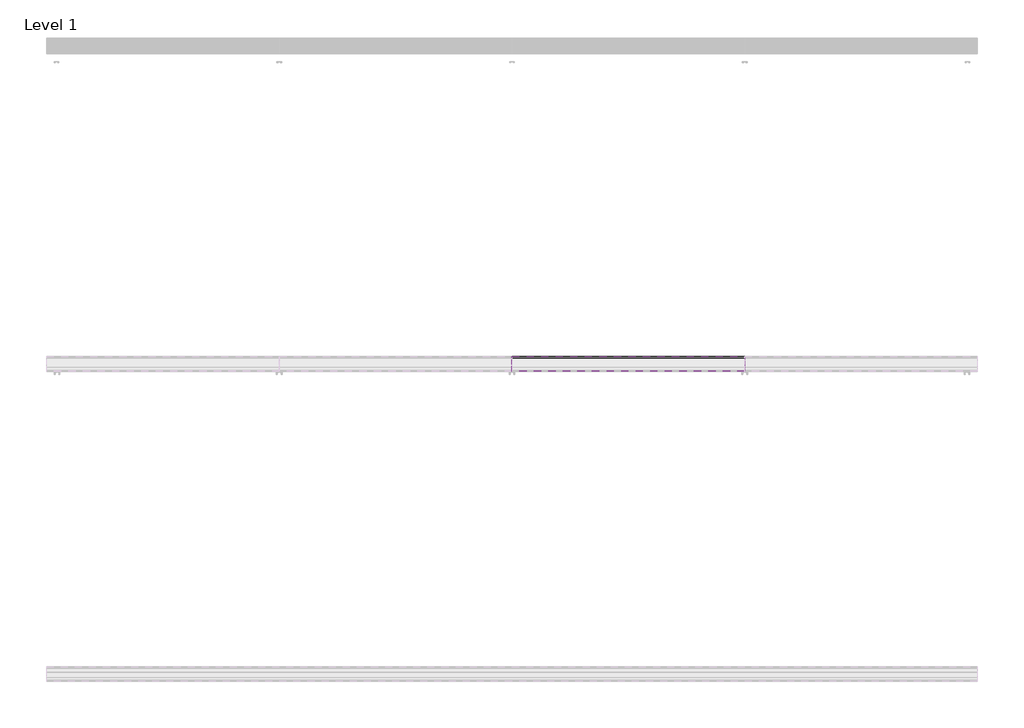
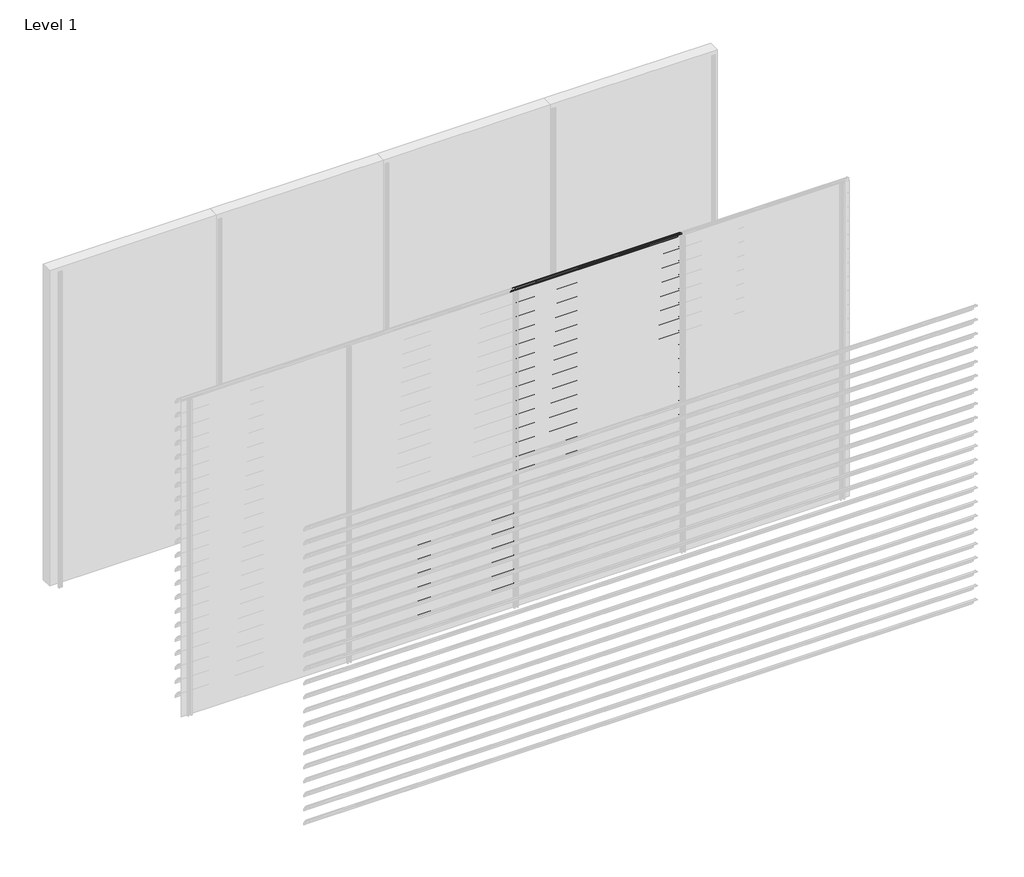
# One storey, part 50 of 57: 20 proxies.
"""IFC4 building model written with IfcOpenShell, lengths in millimetres."""

from ifc_helpers import new_model, si_unit, point, frame, frame_2d, origin, place, context, project, spatial, polyline, circle_curve, trimmed, segment, composite_curve, outline, extrude, element, save

model = new_model("IFC4")

# Units and contexts
model_context = context("Model", 3, world=origin())
ifc_project = project(units=[si_unit("LENGTHUNIT", "METRE", prefix="MILLI")], contexts=[model_context])

# Site, building, storey
site = spatial("IfcSite", under=ifc_project)
building = spatial("IfcBuilding", under=site)
storey = spatial("IfcBuildingStorey", under=building, Name="Level 1", Elevation=0.0)

# Proxies
placement = place(None, origin())
element("IfcBuildingElementProxy", 1, Name="Wall Sweeps", at=placement, inside=storey, context=model_context, shape_type="SweptSolid", body=[
    extrude(outline(composite_curve([segment(trimmed(circle_curve(frame_2d((-5993.7822526, 888.4913792)), 4.2177474), [point((-5989.6985606, 889.5462976))], [point((-5993.7822526, 892.7091266))], False, "CARTESIAN"), True, "CONTINUOUS"), segment(trimmed(circle_curve(frame_2d((-6018.7150834, 790.2536312)), 105.4456002), [point((-5993.7822526, 892.7091266))], [point((-5971.7914298, 884.6832099))], False, "CARTESIAN"), True, "CONTINUOUS"), segment(trimmed(circle_curve(frame_2d((-6061.7199745, 736.0352476)), 173.7335887), [point((-5971.7914298, 884.6832099))], [point((-5913.0720121, 825.9637922))], False, "CARTESIAN"), True, "CONTINUOUS"), segment(trimmed(circle_curve(frame_2d((-6004.9297178, 774.1860314)), 105.4456002), [point((-5913.0720121, 825.9637922))], [point((-5903.6249616, 803.4455765))], False, "CARTESIAN"), True, "CONTINUOUS"), segment(trimmed(circle_curve(frame_2d((-5907.809737, 802.3307305)), 4.3307305), [point((-5903.6249616, 803.4455765))], [point((-5909.0769196, 798.189538))], False, "CARTESIAN"), True, "CONTINUOUS"), segment(polyline([(-5909.0769196, 798.189538), (-5934.7401984, 822.9722783)]), True, "CONTINUOUS"), segment(trimmed(circle_curve(frame_2d((-5931.3879574, 825.2977626)), 4.079877), [point((-5934.7401984, 822.9722783))], [point((-5930.7310597, 829.3244091))], False, "CARTESIAN"), True, "CONTINUOUS"), segment(trimmed(circle_curve(frame_2d((-6014.6665585, 807.2544323)), 86.7885467), [point((-5930.7310597, 829.3244091))], [point((-5942.3028351, 855.1683485))], True, "CARTESIAN"), True, "CONTINUOUS"), segment(polyline([(-5942.3028351, 855.1683485), (-5940.7230099, 857.9046861)]), True, "CONTINUOUS"), segment(trimmed(circle_curve(frame_2d((-6061.7199745, 736.0352476)), 171.7335887), [point((-5940.7230099, 857.9046861))], [point((-5972.7555872, 882.9289618))], True, "CARTESIAN"), True, "CONTINUOUS"), segment(trimmed(circle_curve(frame_2d((-6018.7150834, 790.2536312)), 103.4456002), [point((-5972.7555872, 882.9289618))], [point((-5989.6985606, 889.5462976))], True, "CARTESIAN"), True, "CONTINUOUS")], self_intersect=False)), frame((1500.0, 0.0, 0.0), z_axis=(1.0, 0.0, 0.0), x_axis=(0.0, 1.0, 0.0)), (0.0, 0.0, 1.0), 1500.0),
])
element("IfcBuildingElementProxy", 2, Name="Wall Sweeps", at=placement, inside=storey, context=model_context, shape_type="SweptSolid", body=[
    extrude(outline(composite_curve([segment(trimmed(circle_curve(frame_2d((-5993.7822526, 755.4913792)), 4.2177474), [point((-5989.6985606, 756.5462976))], [point((-5993.7822526, 759.7091266))], False, "CARTESIAN"), True, "CONTINUOUS"), segment(trimmed(circle_curve(frame_2d((-6018.7150834, 657.2536312)), 105.4456002), [point((-5993.7822526, 759.7091266))], [point((-5971.7914298, 751.6832099))], False, "CARTESIAN"), True, "CONTINUOUS"), segment(trimmed(circle_curve(frame_2d((-6061.7199745, 603.0352476)), 173.7335887), [point((-5971.7914298, 751.6832099))], [point((-5913.0720121, 692.9637922))], False, "CARTESIAN"), True, "CONTINUOUS"), segment(trimmed(circle_curve(frame_2d((-6004.9297178, 641.1860314)), 105.4456002), [point((-5913.0720121, 692.9637922))], [point((-5903.6249616, 670.4455765))], False, "CARTESIAN"), True, "CONTINUOUS"), segment(trimmed(circle_curve(frame_2d((-5907.809737, 669.3307305)), 4.3307305), [point((-5903.6249616, 670.4455765))], [point((-5909.0769196, 665.189538))], False, "CARTESIAN"), True, "CONTINUOUS"), segment(polyline([(-5909.0769196, 665.189538), (-5934.7401984, 689.9722783)]), True, "CONTINUOUS"), segment(trimmed(circle_curve(frame_2d((-5931.3879574, 692.2977626)), 4.079877), [point((-5934.7401984, 689.9722783))], [point((-5930.7310597, 696.3244091))], False, "CARTESIAN"), True, "CONTINUOUS"), segment(trimmed(circle_curve(frame_2d((-6014.6665585, 674.2544323)), 86.7885467), [point((-5930.7310597, 696.3244091))], [point((-5942.3028351, 722.1683485))], True, "CARTESIAN"), True, "CONTINUOUS"), segment(polyline([(-5942.3028351, 722.1683485), (-5940.7230099, 724.9046861)]), True, "CONTINUOUS"), segment(trimmed(circle_curve(frame_2d((-6061.7199745, 603.0352476)), 171.7335887), [point((-5940.7230099, 724.9046861))], [point((-5972.7555872, 749.9289618))], True, "CARTESIAN"), True, "CONTINUOUS"), segment(trimmed(circle_curve(frame_2d((-6018.7150834, 657.2536312)), 103.4456002), [point((-5972.7555872, 749.9289618))], [point((-5989.6985606, 756.5462976))], True, "CARTESIAN"), True, "CONTINUOUS")], self_intersect=False)), frame((1500.0, 0.0, 0.0), z_axis=(1.0, 0.0, 0.0), x_axis=(0.0, 1.0, 0.0)), (0.0, 0.0, 1.0), 1500.0),
])
element("IfcBuildingElementProxy", 3, Name="Wall Sweeps", at=placement, inside=storey, context=model_context, shape_type="SweptSolid", body=[
    extrude(outline(composite_curve([segment(trimmed(circle_curve(frame_2d((-5993.7822526, 622.4913792)), 4.2177474), [point((-5989.6985606, 623.5462976))], [point((-5993.7822526, 626.7091266))], False, "CARTESIAN"), True, "CONTINUOUS"), segment(trimmed(circle_curve(frame_2d((-6018.7150834, 524.2536312)), 105.4456002), [point((-5993.7822526, 626.7091266))], [point((-5971.7914298, 618.6832099))], False, "CARTESIAN"), True, "CONTINUOUS"), segment(trimmed(circle_curve(frame_2d((-6061.7199745, 470.0352476)), 173.7335887), [point((-5971.7914298, 618.6832099))], [point((-5913.0720121, 559.9637922))], False, "CARTESIAN"), True, "CONTINUOUS"), segment(trimmed(circle_curve(frame_2d((-6004.9297178, 508.1860314)), 105.4456002), [point((-5913.0720121, 559.9637922))], [point((-5903.6249616, 537.4455765))], False, "CARTESIAN"), True, "CONTINUOUS"), segment(trimmed(circle_curve(frame_2d((-5907.809737, 536.3307305)), 4.3307305), [point((-5903.6249616, 537.4455765))], [point((-5909.0769196, 532.189538))], False, "CARTESIAN"), True, "CONTINUOUS"), segment(polyline([(-5909.0769196, 532.189538), (-5934.7401984, 556.9722783)]), True, "CONTINUOUS"), segment(trimmed(circle_curve(frame_2d((-5931.3879574, 559.2977626)), 4.079877), [point((-5934.7401984, 556.9722783))], [point((-5930.7310597, 563.3244091))], False, "CARTESIAN"), True, "CONTINUOUS"), segment(trimmed(circle_curve(frame_2d((-6014.6665585, 541.2544323)), 86.7885467), [point((-5930.7310597, 563.3244091))], [point((-5942.3028351, 589.1683485))], True, "CARTESIAN"), True, "CONTINUOUS"), segment(polyline([(-5942.3028351, 589.1683485), (-5940.7230099, 591.9046861)]), True, "CONTINUOUS"), segment(trimmed(circle_curve(frame_2d((-6061.7199745, 470.0352476)), 171.7335887), [point((-5940.7230099, 591.9046861))], [point((-5972.7555872, 616.9289618))], True, "CARTESIAN"), True, "CONTINUOUS"), segment(trimmed(circle_curve(frame_2d((-6018.7150834, 524.2536312)), 103.4456002), [point((-5972.7555872, 616.9289618))], [point((-5989.6985606, 623.5462976))], True, "CARTESIAN"), True, "CONTINUOUS")], self_intersect=False)), frame((1500.0, 0.0, 0.0), z_axis=(1.0, 0.0, 0.0), x_axis=(0.0, 1.0, 0.0)), (0.0, 0.0, 1.0), 1500.0),
])
element("IfcBuildingElementProxy", 4, Name="Wall Sweeps", at=placement, inside=storey, context=model_context, shape_type="SweptSolid", body=[
    extrude(outline(composite_curve([segment(trimmed(circle_curve(frame_2d((-5993.7822526, 489.4913792)), 4.2177474), [point((-5989.6985606, 490.5462976))], [point((-5993.7822526, 493.7091266))], False, "CARTESIAN"), True, "CONTINUOUS"), segment(trimmed(circle_curve(frame_2d((-6018.7150834, 391.2536312)), 105.4456002), [point((-5993.7822526, 493.7091266))], [point((-5971.7914298, 485.6832099))], False, "CARTESIAN"), True, "CONTINUOUS"), segment(trimmed(circle_curve(frame_2d((-6061.7199745, 337.0352476)), 173.7335887), [point((-5971.7914298, 485.6832099))], [point((-5913.0720121, 426.9637922))], False, "CARTESIAN"), True, "CONTINUOUS"), segment(trimmed(circle_curve(frame_2d((-6004.9297178, 375.1860314)), 105.4456002), [point((-5913.0720121, 426.9637922))], [point((-5903.6249616, 404.4455765))], False, "CARTESIAN"), True, "CONTINUOUS"), segment(trimmed(circle_curve(frame_2d((-5907.809737, 403.3307305)), 4.3307305), [point((-5903.6249616, 404.4455765))], [point((-5909.0769196, 399.189538))], False, "CARTESIAN"), True, "CONTINUOUS"), segment(polyline([(-5909.0769196, 399.189538), (-5934.7401984, 423.9722783)]), True, "CONTINUOUS"), segment(trimmed(circle_curve(frame_2d((-5931.3879574, 426.2977626)), 4.079877), [point((-5934.7401984, 423.9722783))], [point((-5930.7310597, 430.3244091))], False, "CARTESIAN"), True, "CONTINUOUS"), segment(trimmed(circle_curve(frame_2d((-6014.6665585, 408.2544323)), 86.7885467), [point((-5930.7310597, 430.3244091))], [point((-5942.3028351, 456.1683485))], True, "CARTESIAN"), True, "CONTINUOUS"), segment(polyline([(-5942.3028351, 456.1683485), (-5940.7230099, 458.9046861)]), True, "CONTINUOUS"), segment(trimmed(circle_curve(frame_2d((-6061.7199745, 337.0352476)), 171.7335887), [point((-5940.7230099, 458.9046861))], [point((-5972.7555872, 483.9289618))], True, "CARTESIAN"), True, "CONTINUOUS"), segment(trimmed(circle_curve(frame_2d((-6018.7150834, 391.2536312)), 103.4456002), [point((-5972.7555872, 483.9289618))], [point((-5989.6985606, 490.5462976))], True, "CARTESIAN"), True, "CONTINUOUS")], self_intersect=False)), frame((1500.0, 0.0, 0.0), z_axis=(1.0, 0.0, 0.0), x_axis=(0.0, 1.0, 0.0)), (0.0, 0.0, 1.0), 1500.0),
])
element("IfcBuildingElementProxy", 5, Name="Wall Sweeps", at=placement, inside=storey, context=model_context, shape_type="SweptSolid", body=[
    extrude(outline(composite_curve([segment(trimmed(circle_curve(frame_2d((-5993.7822526, 356.4913792)), 4.2177474), [point((-5989.6985606, 357.5462976))], [point((-5993.7822526, 360.7091266))], False, "CARTESIAN"), True, "CONTINUOUS"), segment(trimmed(circle_curve(frame_2d((-6018.7150834, 258.2536312)), 105.4456002), [point((-5993.7822526, 360.7091266))], [point((-5971.7914298, 352.6832099))], False, "CARTESIAN"), True, "CONTINUOUS"), segment(trimmed(circle_curve(frame_2d((-6061.7199745, 204.0352476)), 173.7335887), [point((-5971.7914298, 352.6832099))], [point((-5913.0720121, 293.9637922))], False, "CARTESIAN"), True, "CONTINUOUS"), segment(trimmed(circle_curve(frame_2d((-6004.9297178, 242.1860314)), 105.4456002), [point((-5913.0720121, 293.9637922))], [point((-5903.6249616, 271.4455765))], False, "CARTESIAN"), True, "CONTINUOUS"), segment(trimmed(circle_curve(frame_2d((-5907.809737, 270.3307305)), 4.3307305), [point((-5903.6249616, 271.4455765))], [point((-5909.0769196, 266.189538))], False, "CARTESIAN"), True, "CONTINUOUS"), segment(polyline([(-5909.0769196, 266.189538), (-5934.7401984, 290.9722783)]), True, "CONTINUOUS"), segment(trimmed(circle_curve(frame_2d((-5931.3879574, 293.2977626)), 4.079877), [point((-5934.7401984, 290.9722783))], [point((-5930.7310597, 297.3244091))], False, "CARTESIAN"), True, "CONTINUOUS"), segment(trimmed(circle_curve(frame_2d((-6014.6665585, 275.2544323)), 86.7885467), [point((-5930.7310597, 297.3244091))], [point((-5942.3028351, 323.1683485))], True, "CARTESIAN"), True, "CONTINUOUS"), segment(polyline([(-5942.3028351, 323.1683485), (-5940.7230099, 325.9046861)]), True, "CONTINUOUS"), segment(trimmed(circle_curve(frame_2d((-6061.7199745, 204.0352476)), 171.7335887), [point((-5940.7230099, 325.9046861))], [point((-5972.7555872, 350.9289618))], True, "CARTESIAN"), True, "CONTINUOUS"), segment(trimmed(circle_curve(frame_2d((-6018.7150834, 258.2536312)), 103.4456002), [point((-5972.7555872, 350.9289618))], [point((-5989.6985606, 357.5462976))], True, "CARTESIAN"), True, "CONTINUOUS")], self_intersect=False)), frame((1500.0, 0.0, 0.0), z_axis=(1.0, 0.0, 0.0), x_axis=(0.0, 1.0, 0.0)), (0.0, 0.0, 1.0), 1500.0),
])
element("IfcBuildingElementProxy", 6, Name="Wall Sweeps", at=placement, inside=storey, context=model_context, shape_type="SweptSolid", body=[
    extrude(outline(composite_curve([segment(trimmed(circle_curve(frame_2d((-5993.7822526, 223.4913792)), 4.2177474), [point((-5989.6985606, 224.5462976))], [point((-5993.7822526, 227.7091266))], False, "CARTESIAN"), True, "CONTINUOUS"), segment(trimmed(circle_curve(frame_2d((-6018.7150834, 125.2536312)), 105.4456002), [point((-5993.7822526, 227.7091266))], [point((-5971.7914298, 219.6832099))], False, "CARTESIAN"), True, "CONTINUOUS"), segment(trimmed(circle_curve(frame_2d((-6061.7199745, 71.0352476)), 173.7335887), [point((-5971.7914298, 219.6832099))], [point((-5913.0720121, 160.9637922))], False, "CARTESIAN"), True, "CONTINUOUS"), segment(trimmed(circle_curve(frame_2d((-6004.9297178, 109.1860314)), 105.4456002), [point((-5913.0720121, 160.9637922))], [point((-5903.6249616, 138.4455765))], False, "CARTESIAN"), True, "CONTINUOUS"), segment(trimmed(circle_curve(frame_2d((-5907.809737, 137.3307305)), 4.3307305), [point((-5903.6249616, 138.4455765))], [point((-5909.0769196, 133.189538))], False, "CARTESIAN"), True, "CONTINUOUS"), segment(polyline([(-5909.0769196, 133.189538), (-5934.7401984, 157.9722783)]), True, "CONTINUOUS"), segment(trimmed(circle_curve(frame_2d((-5931.3879574, 160.2977626)), 4.079877), [point((-5934.7401984, 157.9722783))], [point((-5930.7310597, 164.3244091))], False, "CARTESIAN"), True, "CONTINUOUS"), segment(trimmed(circle_curve(frame_2d((-6014.6665585, 142.2544323)), 86.7885467), [point((-5930.7310597, 164.3244091))], [point((-5942.3028351, 190.1683485))], True, "CARTESIAN"), True, "CONTINUOUS"), segment(polyline([(-5942.3028351, 190.1683485), (-5940.7230099, 192.9046861)]), True, "CONTINUOUS"), segment(trimmed(circle_curve(frame_2d((-6061.7199745, 71.0352476)), 171.7335887), [point((-5940.7230099, 192.9046861))], [point((-5972.7555872, 217.9289618))], True, "CARTESIAN"), True, "CONTINUOUS"), segment(trimmed(circle_curve(frame_2d((-6018.7150834, 125.2536312)), 103.4456002), [point((-5972.7555872, 217.9289618))], [point((-5989.6985606, 224.5462976))], True, "CARTESIAN"), True, "CONTINUOUS")], self_intersect=False)), frame((1500.0, 0.0, 0.0), z_axis=(1.0, 0.0, 0.0), x_axis=(0.0, 1.0, 0.0)), (0.0, 0.0, 1.0), 1500.0),
])
element("IfcBuildingElementProxy", 7, Name="Wall Sweeps", at=placement, inside=storey, context=model_context, shape_type="SweptSolid", body=[
    extrude(outline(composite_curve([segment(trimmed(circle_curve(frame_2d((-5993.7822526, 3016.4913792)), 4.2177474), [point((-5989.6985606, 3017.5462976))], [point((-5993.7822526, 3020.7091266))], False, "CARTESIAN"), True, "CONTINUOUS"), segment(trimmed(circle_curve(frame_2d((-6018.7150834, 2918.2536312)), 105.4456002), [point((-5993.7822526, 3020.7091266))], [point((-5971.7914298, 3012.6832099))], False, "CARTESIAN"), True, "CONTINUOUS"), segment(trimmed(circle_curve(frame_2d((-6061.7199745, 2864.0352476)), 173.7335887), [point((-5971.7914298, 3012.6832099))], [point((-5913.0720121, 2953.9637922))], False, "CARTESIAN"), True, "CONTINUOUS"), segment(trimmed(circle_curve(frame_2d((-6004.9297178, 2902.1860314)), 105.4456002), [point((-5913.0720121, 2953.9637922))], [point((-5903.6249616, 2931.4455765))], False, "CARTESIAN"), True, "CONTINUOUS"), segment(trimmed(circle_curve(frame_2d((-5907.809737, 2930.3307305)), 4.3307305), [point((-5903.6249616, 2931.4455765))], [point((-5909.0769196, 2926.189538))], False, "CARTESIAN"), True, "CONTINUOUS"), segment(polyline([(-5909.0769196, 2926.189538), (-5934.7401984, 2950.9722783)]), True, "CONTINUOUS"), segment(trimmed(circle_curve(frame_2d((-5931.3879574, 2953.2977626)), 4.079877), [point((-5934.7401984, 2950.9722783))], [point((-5930.7310597, 2957.3244091))], False, "CARTESIAN"), True, "CONTINUOUS"), segment(trimmed(circle_curve(frame_2d((-6014.6665585, 2935.2544323)), 86.7885467), [point((-5930.7310597, 2957.3244091))], [point((-5942.3028351, 2983.1683485))], True, "CARTESIAN"), True, "CONTINUOUS"), segment(polyline([(-5942.3028351, 2983.1683485), (-5940.7230099, 2985.9046861)]), True, "CONTINUOUS"), segment(trimmed(circle_curve(frame_2d((-6061.7199745, 2864.0352476)), 171.7335887), [point((-5940.7230099, 2985.9046861))], [point((-5972.7555872, 3010.9289618))], True, "CARTESIAN"), True, "CONTINUOUS"), segment(trimmed(circle_curve(frame_2d((-6018.7150834, 2918.2536312)), 103.4456002), [point((-5972.7555872, 3010.9289618))], [point((-5989.6985606, 3017.5462976))], True, "CARTESIAN"), True, "CONTINUOUS")], self_intersect=False)), frame((3000.0, 0.0, 0.0), z_axis=(1.0, 0.0, 0.0), x_axis=(0.0, 1.0, 0.0)), (0.0, 0.0, 1.0), 1500.0),
])
element("IfcBuildingElementProxy", 8, Name="Wall Sweeps", at=placement, inside=storey, context=model_context, shape_type="SweptSolid", body=[
    extrude(outline(composite_curve([segment(trimmed(circle_curve(frame_2d((-5993.7822526, 2883.4913792)), 4.2177474), [point((-5989.6985606, 2884.5462976))], [point((-5993.7822526, 2887.7091266))], False, "CARTESIAN"), True, "CONTINUOUS"), segment(trimmed(circle_curve(frame_2d((-6018.7150834, 2785.2536312)), 105.4456002), [point((-5993.7822526, 2887.7091266))], [point((-5971.7914298, 2879.6832099))], False, "CARTESIAN"), True, "CONTINUOUS"), segment(trimmed(circle_curve(frame_2d((-6061.7199745, 2731.0352476)), 173.7335887), [point((-5971.7914298, 2879.6832099))], [point((-5913.0720121, 2820.9637922))], False, "CARTESIAN"), True, "CONTINUOUS"), segment(trimmed(circle_curve(frame_2d((-6004.9297178, 2769.1860314)), 105.4456002), [point((-5913.0720121, 2820.9637922))], [point((-5903.6249616, 2798.4455765))], False, "CARTESIAN"), True, "CONTINUOUS"), segment(trimmed(circle_curve(frame_2d((-5907.809737, 2797.3307305)), 4.3307305), [point((-5903.6249616, 2798.4455765))], [point((-5909.0769196, 2793.189538))], False, "CARTESIAN"), True, "CONTINUOUS"), segment(polyline([(-5909.0769196, 2793.189538), (-5934.7401984, 2817.9722783)]), True, "CONTINUOUS"), segment(trimmed(circle_curve(frame_2d((-5931.3879574, 2820.2977626)), 4.079877), [point((-5934.7401984, 2817.9722783))], [point((-5930.7310597, 2824.3244091))], False, "CARTESIAN"), True, "CONTINUOUS"), segment(trimmed(circle_curve(frame_2d((-6014.6665585, 2802.2544323)), 86.7885467), [point((-5930.7310597, 2824.3244091))], [point((-5942.3028351, 2850.1683485))], True, "CARTESIAN"), True, "CONTINUOUS"), segment(polyline([(-5942.3028351, 2850.1683485), (-5940.7230099, 2852.9046861)]), True, "CONTINUOUS"), segment(trimmed(circle_curve(frame_2d((-6061.7199745, 2731.0352476)), 171.7335887), [point((-5940.7230099, 2852.9046861))], [point((-5972.7555872, 2877.9289618))], True, "CARTESIAN"), True, "CONTINUOUS"), segment(trimmed(circle_curve(frame_2d((-6018.7150834, 2785.2536312)), 103.4456002), [point((-5972.7555872, 2877.9289618))], [point((-5989.6985606, 2884.5462976))], True, "CARTESIAN"), True, "CONTINUOUS")], self_intersect=False)), frame((3000.0, 0.0, 0.0), z_axis=(1.0, 0.0, 0.0), x_axis=(0.0, 1.0, 0.0)), (0.0, 0.0, 1.0), 1500.0),
])
element("IfcBuildingElementProxy", 9, Name="Wall Sweeps", at=placement, inside=storey, context=model_context, shape_type="SweptSolid", body=[
    extrude(outline(composite_curve([segment(trimmed(circle_curve(frame_2d((-5993.7822526, 2750.4913792)), 4.2177474), [point((-5989.6985606, 2751.5462976))], [point((-5993.7822526, 2754.7091266))], False, "CARTESIAN"), True, "CONTINUOUS"), segment(trimmed(circle_curve(frame_2d((-6018.7150834, 2652.2536312)), 105.4456002), [point((-5993.7822526, 2754.7091266))], [point((-5971.7914298, 2746.6832099))], False, "CARTESIAN"), True, "CONTINUOUS"), segment(trimmed(circle_curve(frame_2d((-6061.7199745, 2598.0352476)), 173.7335887), [point((-5971.7914298, 2746.6832099))], [point((-5913.0720121, 2687.9637922))], False, "CARTESIAN"), True, "CONTINUOUS"), segment(trimmed(circle_curve(frame_2d((-6004.9297178, 2636.1860314)), 105.4456002), [point((-5913.0720121, 2687.9637922))], [point((-5903.6249616, 2665.4455765))], False, "CARTESIAN"), True, "CONTINUOUS"), segment(trimmed(circle_curve(frame_2d((-5907.809737, 2664.3307305)), 4.3307305), [point((-5903.6249616, 2665.4455765))], [point((-5909.0769196, 2660.189538))], False, "CARTESIAN"), True, "CONTINUOUS"), segment(polyline([(-5909.0769196, 2660.189538), (-5934.7401984, 2684.9722783)]), True, "CONTINUOUS"), segment(trimmed(circle_curve(frame_2d((-5931.3879574, 2687.2977626)), 4.079877), [point((-5934.7401984, 2684.9722783))], [point((-5930.7310597, 2691.3244091))], False, "CARTESIAN"), True, "CONTINUOUS"), segment(trimmed(circle_curve(frame_2d((-6014.6665585, 2669.2544323)), 86.7885467), [point((-5930.7310597, 2691.3244091))], [point((-5942.3028351, 2717.1683485))], True, "CARTESIAN"), True, "CONTINUOUS"), segment(polyline([(-5942.3028351, 2717.1683485), (-5940.7230099, 2719.9046861)]), True, "CONTINUOUS"), segment(trimmed(circle_curve(frame_2d((-6061.7199745, 2598.0352476)), 171.7335887), [point((-5940.7230099, 2719.9046861))], [point((-5972.7555872, 2744.9289618))], True, "CARTESIAN"), True, "CONTINUOUS"), segment(trimmed(circle_curve(frame_2d((-6018.7150834, 2652.2536312)), 103.4456002), [point((-5972.7555872, 2744.9289618))], [point((-5989.6985606, 2751.5462976))], True, "CARTESIAN"), True, "CONTINUOUS")], self_intersect=False)), frame((3000.0, 0.0, 0.0), z_axis=(1.0, 0.0, 0.0), x_axis=(0.0, 1.0, 0.0)), (0.0, 0.0, 1.0), 1500.0),
])
element("IfcBuildingElementProxy", 10, Name="Wall Sweeps", at=placement, inside=storey, context=model_context, shape_type="SweptSolid", body=[
    extrude(outline(composite_curve([segment(trimmed(circle_curve(frame_2d((-5993.7822526, 2617.4913792)), 4.2177474), [point((-5989.6985606, 2618.5462976))], [point((-5993.7822526, 2621.7091266))], False, "CARTESIAN"), True, "CONTINUOUS"), segment(trimmed(circle_curve(frame_2d((-6018.7150834, 2519.2536312)), 105.4456002), [point((-5993.7822526, 2621.7091266))], [point((-5971.7914298, 2613.6832099))], False, "CARTESIAN"), True, "CONTINUOUS"), segment(trimmed(circle_curve(frame_2d((-6061.7199745, 2465.0352476)), 173.7335887), [point((-5971.7914298, 2613.6832099))], [point((-5913.0720121, 2554.9637922))], False, "CARTESIAN"), True, "CONTINUOUS"), segment(trimmed(circle_curve(frame_2d((-6004.9297178, 2503.1860314)), 105.4456002), [point((-5913.0720121, 2554.9637922))], [point((-5903.6249616, 2532.4455765))], False, "CARTESIAN"), True, "CONTINUOUS"), segment(trimmed(circle_curve(frame_2d((-5907.809737, 2531.3307305)), 4.3307305), [point((-5903.6249616, 2532.4455765))], [point((-5909.0769196, 2527.189538))], False, "CARTESIAN"), True, "CONTINUOUS"), segment(polyline([(-5909.0769196, 2527.189538), (-5934.7401984, 2551.9722783)]), True, "CONTINUOUS"), segment(trimmed(circle_curve(frame_2d((-5931.3879574, 2554.2977626)), 4.079877), [point((-5934.7401984, 2551.9722783))], [point((-5930.7310597, 2558.3244091))], False, "CARTESIAN"), True, "CONTINUOUS"), segment(trimmed(circle_curve(frame_2d((-6014.6665585, 2536.2544323)), 86.7885467), [point((-5930.7310597, 2558.3244091))], [point((-5942.3028351, 2584.1683485))], True, "CARTESIAN"), True, "CONTINUOUS"), segment(polyline([(-5942.3028351, 2584.1683485), (-5940.7230099, 2586.9046861)]), True, "CONTINUOUS"), segment(trimmed(circle_curve(frame_2d((-6061.7199745, 2465.0352476)), 171.7335887), [point((-5940.7230099, 2586.9046861))], [point((-5972.7555872, 2611.9289618))], True, "CARTESIAN"), True, "CONTINUOUS"), segment(trimmed(circle_curve(frame_2d((-6018.7150834, 2519.2536312)), 103.4456002), [point((-5972.7555872, 2611.9289618))], [point((-5989.6985606, 2618.5462976))], True, "CARTESIAN"), True, "CONTINUOUS")], self_intersect=False)), frame((3000.0, 0.0, 0.0), z_axis=(1.0, 0.0, 0.0), x_axis=(0.0, 1.0, 0.0)), (0.0, 0.0, 1.0), 1500.0),
])
element("IfcBuildingElementProxy", 11, Name="Wall Sweeps", at=placement, inside=storey, context=model_context, shape_type="SweptSolid", body=[
    extrude(outline(composite_curve([segment(trimmed(circle_curve(frame_2d((-5993.7822526, 2484.4913792)), 4.2177474), [point((-5989.6985606, 2485.5462976))], [point((-5993.7822526, 2488.7091266))], False, "CARTESIAN"), True, "CONTINUOUS"), segment(trimmed(circle_curve(frame_2d((-6018.7150834, 2386.2536312)), 105.4456002), [point((-5993.7822526, 2488.7091266))], [point((-5971.7914298, 2480.6832099))], False, "CARTESIAN"), True, "CONTINUOUS"), segment(trimmed(circle_curve(frame_2d((-6061.7199745, 2332.0352476)), 173.7335887), [point((-5971.7914298, 2480.6832099))], [point((-5913.0720121, 2421.9637922))], False, "CARTESIAN"), True, "CONTINUOUS"), segment(trimmed(circle_curve(frame_2d((-6004.9297178, 2370.1860314)), 105.4456002), [point((-5913.0720121, 2421.9637922))], [point((-5903.6249616, 2399.4455765))], False, "CARTESIAN"), True, "CONTINUOUS"), segment(trimmed(circle_curve(frame_2d((-5907.809737, 2398.3307305)), 4.3307305), [point((-5903.6249616, 2399.4455765))], [point((-5909.0769196, 2394.189538))], False, "CARTESIAN"), True, "CONTINUOUS"), segment(polyline([(-5909.0769196, 2394.189538), (-5934.7401984, 2418.9722783)]), True, "CONTINUOUS"), segment(trimmed(circle_curve(frame_2d((-5931.3879574, 2421.2977626)), 4.079877), [point((-5934.7401984, 2418.9722783))], [point((-5930.7310597, 2425.3244091))], False, "CARTESIAN"), True, "CONTINUOUS"), segment(trimmed(circle_curve(frame_2d((-6014.6665585, 2403.2544323)), 86.7885467), [point((-5930.7310597, 2425.3244091))], [point((-5942.3028351, 2451.1683485))], True, "CARTESIAN"), True, "CONTINUOUS"), segment(polyline([(-5942.3028351, 2451.1683485), (-5940.7230099, 2453.9046861)]), True, "CONTINUOUS"), segment(trimmed(circle_curve(frame_2d((-6061.7199745, 2332.0352476)), 171.7335887), [point((-5940.7230099, 2453.9046861))], [point((-5972.7555872, 2478.9289618))], True, "CARTESIAN"), True, "CONTINUOUS"), segment(trimmed(circle_curve(frame_2d((-6018.7150834, 2386.2536312)), 103.4456002), [point((-5972.7555872, 2478.9289618))], [point((-5989.6985606, 2485.5462976))], True, "CARTESIAN"), True, "CONTINUOUS")], self_intersect=False)), frame((3000.0, 0.0, 0.0), z_axis=(1.0, 0.0, 0.0), x_axis=(0.0, 1.0, 0.0)), (0.0, 0.0, 1.0), 1500.0),
])
element("IfcBuildingElementProxy", 12, Name="Wall Sweeps", at=placement, inside=storey, context=model_context, shape_type="SweptSolid", body=[
    extrude(outline(composite_curve([segment(trimmed(circle_curve(frame_2d((-5993.7822526, 2351.4913792)), 4.2177474), [point((-5989.6985606, 2352.5462976))], [point((-5993.7822526, 2355.7091266))], False, "CARTESIAN"), True, "CONTINUOUS"), segment(trimmed(circle_curve(frame_2d((-6018.7150834, 2253.2536312)), 105.4456002), [point((-5993.7822526, 2355.7091266))], [point((-5971.7914298, 2347.6832099))], False, "CARTESIAN"), True, "CONTINUOUS"), segment(trimmed(circle_curve(frame_2d((-6061.7199745, 2199.0352476)), 173.7335887), [point((-5971.7914298, 2347.6832099))], [point((-5913.0720121, 2288.9637922))], False, "CARTESIAN"), True, "CONTINUOUS"), segment(trimmed(circle_curve(frame_2d((-6004.9297178, 2237.1860314)), 105.4456002), [point((-5913.0720121, 2288.9637922))], [point((-5903.6249616, 2266.4455765))], False, "CARTESIAN"), True, "CONTINUOUS"), segment(trimmed(circle_curve(frame_2d((-5907.809737, 2265.3307305)), 4.3307305), [point((-5903.6249616, 2266.4455765))], [point((-5909.0769196, 2261.189538))], False, "CARTESIAN"), True, "CONTINUOUS"), segment(polyline([(-5909.0769196, 2261.189538), (-5934.7401984, 2285.9722783)]), True, "CONTINUOUS"), segment(trimmed(circle_curve(frame_2d((-5931.3879574, 2288.2977626)), 4.079877), [point((-5934.7401984, 2285.9722783))], [point((-5930.7310597, 2292.3244091))], False, "CARTESIAN"), True, "CONTINUOUS"), segment(trimmed(circle_curve(frame_2d((-6014.6665585, 2270.2544323)), 86.7885467), [point((-5930.7310597, 2292.3244091))], [point((-5942.3028351, 2318.1683485))], True, "CARTESIAN"), True, "CONTINUOUS"), segment(polyline([(-5942.3028351, 2318.1683485), (-5940.7230099, 2320.9046861)]), True, "CONTINUOUS"), segment(trimmed(circle_curve(frame_2d((-6061.7199745, 2199.0352476)), 171.7335887), [point((-5940.7230099, 2320.9046861))], [point((-5972.7555872, 2345.9289618))], True, "CARTESIAN"), True, "CONTINUOUS"), segment(trimmed(circle_curve(frame_2d((-6018.7150834, 2253.2536312)), 103.4456002), [point((-5972.7555872, 2345.9289618))], [point((-5989.6985606, 2352.5462976))], True, "CARTESIAN"), True, "CONTINUOUS")], self_intersect=False)), frame((3000.0, 0.0, 0.0), z_axis=(1.0, 0.0, 0.0), x_axis=(0.0, 1.0, 0.0)), (0.0, 0.0, 1.0), 1500.0),
])
element("IfcBuildingElementProxy", 13, Name="Wall Sweeps", at=placement, inside=storey, context=model_context, shape_type="SweptSolid", body=[
    extrude(outline(composite_curve([segment(trimmed(circle_curve(frame_2d((-5993.7822526, 2218.4913792)), 4.2177474), [point((-5989.6985606, 2219.5462976))], [point((-5993.7822526, 2222.7091266))], False, "CARTESIAN"), True, "CONTINUOUS"), segment(trimmed(circle_curve(frame_2d((-6018.7150834, 2120.2536312)), 105.4456002), [point((-5993.7822526, 2222.7091266))], [point((-5971.7914298, 2214.6832099))], False, "CARTESIAN"), True, "CONTINUOUS"), segment(trimmed(circle_curve(frame_2d((-6061.7199745, 2066.0352476)), 173.7335887), [point((-5971.7914298, 2214.6832099))], [point((-5913.0720121, 2155.9637922))], False, "CARTESIAN"), True, "CONTINUOUS"), segment(trimmed(circle_curve(frame_2d((-6004.9297178, 2104.1860314)), 105.4456002), [point((-5913.0720121, 2155.9637922))], [point((-5903.6249616, 2133.4455765))], False, "CARTESIAN"), True, "CONTINUOUS"), segment(trimmed(circle_curve(frame_2d((-5907.809737, 2132.3307305)), 4.3307305), [point((-5903.6249616, 2133.4455765))], [point((-5909.0769196, 2128.189538))], False, "CARTESIAN"), True, "CONTINUOUS"), segment(polyline([(-5909.0769196, 2128.189538), (-5934.7401984, 2152.9722783)]), True, "CONTINUOUS"), segment(trimmed(circle_curve(frame_2d((-5931.3879574, 2155.2977626)), 4.079877), [point((-5934.7401984, 2152.9722783))], [point((-5930.7310597, 2159.3244091))], False, "CARTESIAN"), True, "CONTINUOUS"), segment(trimmed(circle_curve(frame_2d((-6014.6665585, 2137.2544323)), 86.7885467), [point((-5930.7310597, 2159.3244091))], [point((-5942.3028351, 2185.1683485))], True, "CARTESIAN"), True, "CONTINUOUS"), segment(polyline([(-5942.3028351, 2185.1683485), (-5940.7230099, 2187.9046861)]), True, "CONTINUOUS"), segment(trimmed(circle_curve(frame_2d((-6061.7199745, 2066.0352476)), 171.7335887), [point((-5940.7230099, 2187.9046861))], [point((-5972.7555872, 2212.9289618))], True, "CARTESIAN"), True, "CONTINUOUS"), segment(trimmed(circle_curve(frame_2d((-6018.7150834, 2120.2536312)), 103.4456002), [point((-5972.7555872, 2212.9289618))], [point((-5989.6985606, 2219.5462976))], True, "CARTESIAN"), True, "CONTINUOUS")], self_intersect=False)), frame((3000.0, 0.0, 0.0), z_axis=(1.0, 0.0, 0.0), x_axis=(0.0, 1.0, 0.0)), (0.0, 0.0, 1.0), 1500.0),
])
element("IfcBuildingElementProxy", 14, Name="Wall Sweeps", at=placement, inside=storey, context=model_context, shape_type="SweptSolid", body=[
    extrude(outline(composite_curve([segment(trimmed(circle_curve(frame_2d((-5993.7822526, 2085.4913792)), 4.2177474), [point((-5989.6985606, 2086.5462976))], [point((-5993.7822526, 2089.7091266))], False, "CARTESIAN"), True, "CONTINUOUS"), segment(trimmed(circle_curve(frame_2d((-6018.7150834, 1987.2536312)), 105.4456002), [point((-5993.7822526, 2089.7091266))], [point((-5971.7914298, 2081.6832099))], False, "CARTESIAN"), True, "CONTINUOUS"), segment(trimmed(circle_curve(frame_2d((-6061.7199745, 1933.0352476)), 173.7335887), [point((-5971.7914298, 2081.6832099))], [point((-5913.0720121, 2022.9637922))], False, "CARTESIAN"), True, "CONTINUOUS"), segment(trimmed(circle_curve(frame_2d((-6004.9297178, 1971.1860314)), 105.4456002), [point((-5913.0720121, 2022.9637922))], [point((-5903.6249616, 2000.4455765))], False, "CARTESIAN"), True, "CONTINUOUS"), segment(trimmed(circle_curve(frame_2d((-5907.809737, 1999.3307305)), 4.3307305), [point((-5903.6249616, 2000.4455765))], [point((-5909.0769196, 1995.189538))], False, "CARTESIAN"), True, "CONTINUOUS"), segment(polyline([(-5909.0769196, 1995.189538), (-5934.7401984, 2019.9722783)]), True, "CONTINUOUS"), segment(trimmed(circle_curve(frame_2d((-5931.3879574, 2022.2977626)), 4.079877), [point((-5934.7401984, 2019.9722783))], [point((-5930.7310597, 2026.3244091))], False, "CARTESIAN"), True, "CONTINUOUS"), segment(trimmed(circle_curve(frame_2d((-6014.6665585, 2004.2544323)), 86.7885467), [point((-5930.7310597, 2026.3244091))], [point((-5942.3028351, 2052.1683485))], True, "CARTESIAN"), True, "CONTINUOUS"), segment(polyline([(-5942.3028351, 2052.1683485), (-5940.7230099, 2054.9046861)]), True, "CONTINUOUS"), segment(trimmed(circle_curve(frame_2d((-6061.7199745, 1933.0352476)), 171.7335887), [point((-5940.7230099, 2054.9046861))], [point((-5972.7555872, 2079.9289618))], True, "CARTESIAN"), True, "CONTINUOUS"), segment(trimmed(circle_curve(frame_2d((-6018.7150834, 1987.2536312)), 103.4456002), [point((-5972.7555872, 2079.9289618))], [point((-5989.6985606, 2086.5462976))], True, "CARTESIAN"), True, "CONTINUOUS")], self_intersect=False)), frame((3000.0, 0.0, 0.0), z_axis=(1.0, 0.0, 0.0), x_axis=(0.0, 1.0, 0.0)), (0.0, 0.0, 1.0), 1500.0),
])
element("IfcBuildingElementProxy", 15, Name="Wall Sweeps", at=placement, inside=storey, context=model_context, shape_type="SweptSolid", body=[
    extrude(outline(composite_curve([segment(trimmed(circle_curve(frame_2d((-5993.7822526, 1952.4913792)), 4.2177474), [point((-5989.6985606, 1953.5462976))], [point((-5993.7822526, 1956.7091266))], False, "CARTESIAN"), True, "CONTINUOUS"), segment(trimmed(circle_curve(frame_2d((-6018.7150834, 1854.2536312)), 105.4456002), [point((-5993.7822526, 1956.7091266))], [point((-5971.7914298, 1948.6832099))], False, "CARTESIAN"), True, "CONTINUOUS"), segment(trimmed(circle_curve(frame_2d((-6061.7199745, 1800.0352476)), 173.7335887), [point((-5971.7914298, 1948.6832099))], [point((-5913.0720121, 1889.9637922))], False, "CARTESIAN"), True, "CONTINUOUS"), segment(trimmed(circle_curve(frame_2d((-6004.9297178, 1838.1860314)), 105.4456002), [point((-5913.0720121, 1889.9637922))], [point((-5903.6249616, 1867.4455765))], False, "CARTESIAN"), True, "CONTINUOUS"), segment(trimmed(circle_curve(frame_2d((-5907.809737, 1866.3307305)), 4.3307305), [point((-5903.6249616, 1867.4455765))], [point((-5909.0769196, 1862.189538))], False, "CARTESIAN"), True, "CONTINUOUS"), segment(polyline([(-5909.0769196, 1862.189538), (-5934.7401984, 1886.9722783)]), True, "CONTINUOUS"), segment(trimmed(circle_curve(frame_2d((-5931.3879574, 1889.2977626)), 4.079877), [point((-5934.7401984, 1886.9722783))], [point((-5930.7310597, 1893.3244091))], False, "CARTESIAN"), True, "CONTINUOUS"), segment(trimmed(circle_curve(frame_2d((-6014.6665585, 1871.2544323)), 86.7885467), [point((-5930.7310597, 1893.3244091))], [point((-5942.3028351, 1919.1683485))], True, "CARTESIAN"), True, "CONTINUOUS"), segment(polyline([(-5942.3028351, 1919.1683485), (-5940.7230099, 1921.9046861)]), True, "CONTINUOUS"), segment(trimmed(circle_curve(frame_2d((-6061.7199745, 1800.0352476)), 171.7335887), [point((-5940.7230099, 1921.9046861))], [point((-5972.7555872, 1946.9289618))], True, "CARTESIAN"), True, "CONTINUOUS"), segment(trimmed(circle_curve(frame_2d((-6018.7150834, 1854.2536312)), 103.4456002), [point((-5972.7555872, 1946.9289618))], [point((-5989.6985606, 1953.5462976))], True, "CARTESIAN"), True, "CONTINUOUS")], self_intersect=False)), frame((3000.0, 0.0, 0.0), z_axis=(1.0, 0.0, 0.0), x_axis=(0.0, 1.0, 0.0)), (0.0, 0.0, 1.0), 1500.0),
])
element("IfcBuildingElementProxy", 16, Name="Wall Sweeps", at=placement, inside=storey, context=model_context, shape_type="SweptSolid", body=[
    extrude(outline(composite_curve([segment(trimmed(circle_curve(frame_2d((-5993.7822526, 1819.4913792)), 4.2177474), [point((-5989.6985606, 1820.5462976))], [point((-5993.7822526, 1823.7091266))], False, "CARTESIAN"), True, "CONTINUOUS"), segment(trimmed(circle_curve(frame_2d((-6018.7150834, 1721.2536312)), 105.4456002), [point((-5993.7822526, 1823.7091266))], [point((-5971.7914298, 1815.6832099))], False, "CARTESIAN"), True, "CONTINUOUS"), segment(trimmed(circle_curve(frame_2d((-6061.7199745, 1667.0352476)), 173.7335887), [point((-5971.7914298, 1815.6832099))], [point((-5913.0720121, 1756.9637922))], False, "CARTESIAN"), True, "CONTINUOUS"), segment(trimmed(circle_curve(frame_2d((-6004.9297178, 1705.1860314)), 105.4456002), [point((-5913.0720121, 1756.9637922))], [point((-5903.6249616, 1734.4455765))], False, "CARTESIAN"), True, "CONTINUOUS"), segment(trimmed(circle_curve(frame_2d((-5907.809737, 1733.3307305)), 4.3307305), [point((-5903.6249616, 1734.4455765))], [point((-5909.0769196, 1729.189538))], False, "CARTESIAN"), True, "CONTINUOUS"), segment(polyline([(-5909.0769196, 1729.189538), (-5934.7401984, 1753.9722783)]), True, "CONTINUOUS"), segment(trimmed(circle_curve(frame_2d((-5931.3879574, 1756.2977626)), 4.079877), [point((-5934.7401984, 1753.9722783))], [point((-5930.7310597, 1760.3244091))], False, "CARTESIAN"), True, "CONTINUOUS"), segment(trimmed(circle_curve(frame_2d((-6014.6665585, 1738.2544323)), 86.7885467), [point((-5930.7310597, 1760.3244091))], [point((-5942.3028351, 1786.1683485))], True, "CARTESIAN"), True, "CONTINUOUS"), segment(polyline([(-5942.3028351, 1786.1683485), (-5940.7230099, 1788.9046861)]), True, "CONTINUOUS"), segment(trimmed(circle_curve(frame_2d((-6061.7199745, 1667.0352476)), 171.7335887), [point((-5940.7230099, 1788.9046861))], [point((-5972.7555872, 1813.9289618))], True, "CARTESIAN"), True, "CONTINUOUS"), segment(trimmed(circle_curve(frame_2d((-6018.7150834, 1721.2536312)), 103.4456002), [point((-5972.7555872, 1813.9289618))], [point((-5989.6985606, 1820.5462976))], True, "CARTESIAN"), True, "CONTINUOUS")], self_intersect=False)), frame((3000.0, 0.0, 0.0), z_axis=(1.0, 0.0, 0.0), x_axis=(0.0, 1.0, 0.0)), (0.0, 0.0, 1.0), 1500.0),
])
element("IfcBuildingElementProxy", 17, Name="Wall Sweeps", at=placement, inside=storey, context=model_context, shape_type="SweptSolid", body=[
    extrude(outline(composite_curve([segment(trimmed(circle_curve(frame_2d((-5993.7822526, 1686.4913792)), 4.2177474), [point((-5989.6985606, 1687.5462976))], [point((-5993.7822526, 1690.7091266))], False, "CARTESIAN"), True, "CONTINUOUS"), segment(trimmed(circle_curve(frame_2d((-6018.7150834, 1588.2536312)), 105.4456002), [point((-5993.7822526, 1690.7091266))], [point((-5971.7914298, 1682.6832099))], False, "CARTESIAN"), True, "CONTINUOUS"), segment(trimmed(circle_curve(frame_2d((-6061.7199745, 1534.0352476)), 173.7335887), [point((-5971.7914298, 1682.6832099))], [point((-5913.0720121, 1623.9637922))], False, "CARTESIAN"), True, "CONTINUOUS"), segment(trimmed(circle_curve(frame_2d((-6004.9297178, 1572.1860314)), 105.4456002), [point((-5913.0720121, 1623.9637922))], [point((-5903.6249616, 1601.4455765))], False, "CARTESIAN"), True, "CONTINUOUS"), segment(trimmed(circle_curve(frame_2d((-5907.809737, 1600.3307305)), 4.3307305), [point((-5903.6249616, 1601.4455765))], [point((-5909.0769196, 1596.189538))], False, "CARTESIAN"), True, "CONTINUOUS"), segment(polyline([(-5909.0769196, 1596.189538), (-5934.7401984, 1620.9722783)]), True, "CONTINUOUS"), segment(trimmed(circle_curve(frame_2d((-5931.3879574, 1623.2977626)), 4.079877), [point((-5934.7401984, 1620.9722783))], [point((-5930.7310597, 1627.3244091))], False, "CARTESIAN"), True, "CONTINUOUS"), segment(trimmed(circle_curve(frame_2d((-6014.6665585, 1605.2544323)), 86.7885467), [point((-5930.7310597, 1627.3244091))], [point((-5942.3028351, 1653.1683485))], True, "CARTESIAN"), True, "CONTINUOUS"), segment(polyline([(-5942.3028351, 1653.1683485), (-5940.7230099, 1655.9046861)]), True, "CONTINUOUS"), segment(trimmed(circle_curve(frame_2d((-6061.7199745, 1534.0352476)), 171.7335887), [point((-5940.7230099, 1655.9046861))], [point((-5972.7555872, 1680.9289618))], True, "CARTESIAN"), True, "CONTINUOUS"), segment(trimmed(circle_curve(frame_2d((-6018.7150834, 1588.2536312)), 103.4456002), [point((-5972.7555872, 1680.9289618))], [point((-5989.6985606, 1687.5462976))], True, "CARTESIAN"), True, "CONTINUOUS")], self_intersect=False)), frame((3000.0, 0.0, 0.0), z_axis=(1.0, 0.0, 0.0), x_axis=(0.0, 1.0, 0.0)), (0.0, 0.0, 1.0), 1500.0),
])
element("IfcBuildingElementProxy", 18, Name="Wall Sweeps", at=placement, inside=storey, context=model_context, shape_type="SweptSolid", body=[
    extrude(outline(composite_curve([segment(trimmed(circle_curve(frame_2d((-5993.7822526, 1553.4913792)), 4.2177474), [point((-5989.6985606, 1554.5462976))], [point((-5993.7822526, 1557.7091266))], False, "CARTESIAN"), True, "CONTINUOUS"), segment(trimmed(circle_curve(frame_2d((-6018.7150834, 1455.2536312)), 105.4456002), [point((-5993.7822526, 1557.7091266))], [point((-5971.7914298, 1549.6832099))], False, "CARTESIAN"), True, "CONTINUOUS"), segment(trimmed(circle_curve(frame_2d((-6061.7199745, 1401.0352476)), 173.7335887), [point((-5971.7914298, 1549.6832099))], [point((-5913.0720121, 1490.9637922))], False, "CARTESIAN"), True, "CONTINUOUS"), segment(trimmed(circle_curve(frame_2d((-6004.9297178, 1439.1860314)), 105.4456002), [point((-5913.0720121, 1490.9637922))], [point((-5903.6249616, 1468.4455765))], False, "CARTESIAN"), True, "CONTINUOUS"), segment(trimmed(circle_curve(frame_2d((-5907.809737, 1467.3307305)), 4.3307305), [point((-5903.6249616, 1468.4455765))], [point((-5909.0769196, 1463.189538))], False, "CARTESIAN"), True, "CONTINUOUS"), segment(polyline([(-5909.0769196, 1463.189538), (-5934.7401984, 1487.9722783)]), True, "CONTINUOUS"), segment(trimmed(circle_curve(frame_2d((-5931.3879574, 1490.2977626)), 4.079877), [point((-5934.7401984, 1487.9722783))], [point((-5930.7310597, 1494.3244091))], False, "CARTESIAN"), True, "CONTINUOUS"), segment(trimmed(circle_curve(frame_2d((-6014.6665585, 1472.2544323)), 86.7885467), [point((-5930.7310597, 1494.3244091))], [point((-5942.3028351, 1520.1683485))], True, "CARTESIAN"), True, "CONTINUOUS"), segment(polyline([(-5942.3028351, 1520.1683485), (-5940.7230099, 1522.9046861)]), True, "CONTINUOUS"), segment(trimmed(circle_curve(frame_2d((-6061.7199745, 1401.0352476)), 171.7335887), [point((-5940.7230099, 1522.9046861))], [point((-5972.7555872, 1547.9289618))], True, "CARTESIAN"), True, "CONTINUOUS"), segment(trimmed(circle_curve(frame_2d((-6018.7150834, 1455.2536312)), 103.4456002), [point((-5972.7555872, 1547.9289618))], [point((-5989.6985606, 1554.5462976))], True, "CARTESIAN"), True, "CONTINUOUS")], self_intersect=False)), frame((3000.0, 0.0, 0.0), z_axis=(1.0, 0.0, 0.0), x_axis=(0.0, 1.0, 0.0)), (0.0, 0.0, 1.0), 1500.0),
])
element("IfcBuildingElementProxy", 19, Name="Wall Sweeps", at=placement, inside=storey, context=model_context, shape_type="SweptSolid", body=[
    extrude(outline(composite_curve([segment(trimmed(circle_curve(frame_2d((-5993.7822526, 1420.4913792)), 4.2177474), [point((-5989.6985606, 1421.5462976))], [point((-5993.7822526, 1424.7091266))], False, "CARTESIAN"), True, "CONTINUOUS"), segment(trimmed(circle_curve(frame_2d((-6018.7150834, 1322.2536312)), 105.4456002), [point((-5993.7822526, 1424.7091266))], [point((-5971.7914298, 1416.6832099))], False, "CARTESIAN"), True, "CONTINUOUS"), segment(trimmed(circle_curve(frame_2d((-6061.7199745, 1268.0352476)), 173.7335887), [point((-5971.7914298, 1416.6832099))], [point((-5913.0720121, 1357.9637922))], False, "CARTESIAN"), True, "CONTINUOUS"), segment(trimmed(circle_curve(frame_2d((-6004.9297178, 1306.1860314)), 105.4456002), [point((-5913.0720121, 1357.9637922))], [point((-5903.6249616, 1335.4455765))], False, "CARTESIAN"), True, "CONTINUOUS"), segment(trimmed(circle_curve(frame_2d((-5907.809737, 1334.3307305)), 4.3307305), [point((-5903.6249616, 1335.4455765))], [point((-5909.0769196, 1330.189538))], False, "CARTESIAN"), True, "CONTINUOUS"), segment(polyline([(-5909.0769196, 1330.189538), (-5934.7401984, 1354.9722783)]), True, "CONTINUOUS"), segment(trimmed(circle_curve(frame_2d((-5931.3879574, 1357.2977626)), 4.079877), [point((-5934.7401984, 1354.9722783))], [point((-5930.7310597, 1361.3244091))], False, "CARTESIAN"), True, "CONTINUOUS"), segment(trimmed(circle_curve(frame_2d((-6014.6665585, 1339.2544323)), 86.7885467), [point((-5930.7310597, 1361.3244091))], [point((-5942.3028351, 1387.1683485))], True, "CARTESIAN"), True, "CONTINUOUS"), segment(polyline([(-5942.3028351, 1387.1683485), (-5940.7230099, 1389.9046861)]), True, "CONTINUOUS"), segment(trimmed(circle_curve(frame_2d((-6061.7199745, 1268.0352476)), 171.7335887), [point((-5940.7230099, 1389.9046861))], [point((-5972.7555872, 1414.9289618))], True, "CARTESIAN"), True, "CONTINUOUS"), segment(trimmed(circle_curve(frame_2d((-6018.7150834, 1322.2536312)), 103.4456002), [point((-5972.7555872, 1414.9289618))], [point((-5989.6985606, 1421.5462976))], True, "CARTESIAN"), True, "CONTINUOUS")], self_intersect=False)), frame((3000.0, 0.0, 0.0), z_axis=(1.0, 0.0, 0.0), x_axis=(0.0, 1.0, 0.0)), (0.0, 0.0, 1.0), 1500.0),
])
element("IfcBuildingElementProxy", 20, Name="Wall Sweeps", at=placement, inside=storey, context=model_context, shape_type="SweptSolid", body=[
    extrude(outline(composite_curve([segment(trimmed(circle_curve(frame_2d((-5993.7822526, 1287.4913792)), 4.2177474), [point((-5989.6985606, 1288.5462976))], [point((-5993.7822526, 1291.7091266))], False, "CARTESIAN"), True, "CONTINUOUS"), segment(trimmed(circle_curve(frame_2d((-6018.7150834, 1189.2536312)), 105.4456002), [point((-5993.7822526, 1291.7091266))], [point((-5971.7914298, 1283.6832099))], False, "CARTESIAN"), True, "CONTINUOUS"), segment(trimmed(circle_curve(frame_2d((-6061.7199745, 1135.0352476)), 173.7335887), [point((-5971.7914298, 1283.6832099))], [point((-5913.0720121, 1224.9637922))], False, "CARTESIAN"), True, "CONTINUOUS"), segment(trimmed(circle_curve(frame_2d((-6004.9297178, 1173.1860314)), 105.4456002), [point((-5913.0720121, 1224.9637922))], [point((-5903.6249616, 1202.4455765))], False, "CARTESIAN"), True, "CONTINUOUS"), segment(trimmed(circle_curve(frame_2d((-5907.809737, 1201.3307305)), 4.3307305), [point((-5903.6249616, 1202.4455765))], [point((-5909.0769196, 1197.189538))], False, "CARTESIAN"), True, "CONTINUOUS"), segment(polyline([(-5909.0769196, 1197.189538), (-5934.7401984, 1221.9722783)]), True, "CONTINUOUS"), segment(trimmed(circle_curve(frame_2d((-5931.3879574, 1224.2977626)), 4.079877), [point((-5934.7401984, 1221.9722783))], [point((-5930.7310597, 1228.3244091))], False, "CARTESIAN"), True, "CONTINUOUS"), segment(trimmed(circle_curve(frame_2d((-6014.6665585, 1206.2544323)), 86.7885467), [point((-5930.7310597, 1228.3244091))], [point((-5942.3028351, 1254.1683485))], True, "CARTESIAN"), True, "CONTINUOUS"), segment(polyline([(-5942.3028351, 1254.1683485), (-5940.7230099, 1256.9046861)]), True, "CONTINUOUS"), segment(trimmed(circle_curve(frame_2d((-6061.7199745, 1135.0352476)), 171.7335887), [point((-5940.7230099, 1256.9046861))], [point((-5972.7555872, 1281.9289618))], True, "CARTESIAN"), True, "CONTINUOUS"), segment(trimmed(circle_curve(frame_2d((-6018.7150834, 1189.2536312)), 103.4456002), [point((-5972.7555872, 1281.9289618))], [point((-5989.6985606, 1288.5462976))], True, "CARTESIAN"), True, "CONTINUOUS")], self_intersect=False)), frame((3000.0, 0.0, 0.0), z_axis=(1.0, 0.0, 0.0), x_axis=(0.0, 1.0, 0.0)), (0.0, 0.0, 1.0), 1500.0),
])

save(model, "model.ifc")
